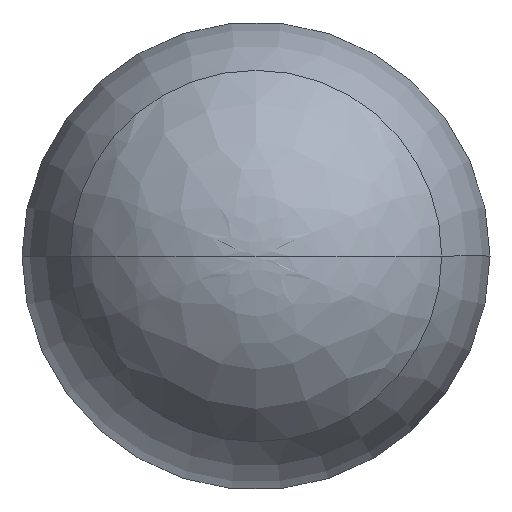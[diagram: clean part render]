
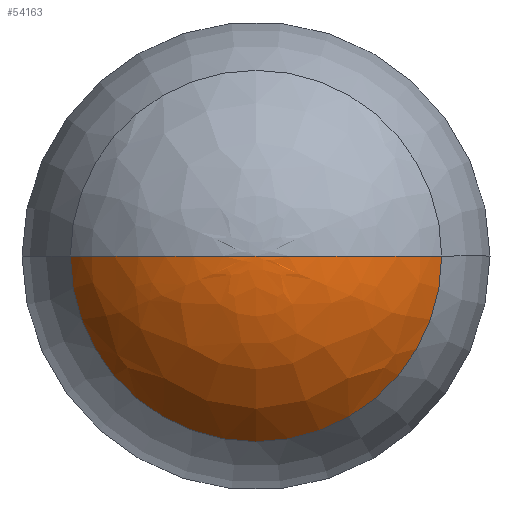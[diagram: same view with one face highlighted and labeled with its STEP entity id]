
A CAD part, front view. The second image highlights one B-rep face of the part: STEP entity #54163.
In plain terms, the highlighted free-form (B-spline) face has degree [3, 3] with [5, 4] control points.
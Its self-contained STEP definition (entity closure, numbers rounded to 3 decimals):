
#9090 = CARTESIAN_POINT ( 'NONE',  ( -160.988, -342.079, 10.578 ) ) ;
#11066 = CARTESIAN_POINT ( 'NONE',  ( 17.311, -402.621, 10.578 ) ) ;
#11469 = CARTESIAN_POINT ( 'NONE',  ( -177.345, -316.996, 10.578 ) ) ;
#11844 = CARTESIAN_POINT ( 'NONE',  ( -19.285, -402.621, 10.578 ) ) ;
#14959 = EDGE_CURVE ( 'NONE', #88991, #60854, #88967, .T. ) ;
#22335 = CARTESIAN_POINT ( 'NONE',  ( -19.285, -402.621, 10.578 ) ) ;
#23926 = CARTESIAN_POINT ( 'NONE',  ( 76.305, -384.669, -180.601 ) ) ;
#30212 = CARTESIAN_POINT ( 'NONE',  ( 138.775, -316.996, 10.578 ) ) ;
#32008 =( BOUNDED_SURFACE ( )  B_SPLINE_SURFACE ( 3, 3, ( 
 ( #11844, #144161, #22335, #110953 ),
 ( #11066, #35224, #45742, #36023 ),
 ( #34467, #23926, #132020, #60988 ),
 ( #59408, #96492, #82847, #121444 ),
 ( #145671, #84404, #33693, #94925 ) ),
 .UNSPECIFIED., .F., .F., .T. ) 
 B_SPLINE_SURFACE_WITH_KNOTS ( ( 4, 1, 4 ),
 ( 4, 4 ),
 ( 0., 0.54, 1. ),
 ( 0., 1. ),
 .UNSPECIFIED. ) 
 GEOMETRIC_REPRESENTATION_ITEM ( )  RATIONAL_B_SPLINE_SURFACE ( (
 ( 1., 0.333, 0.333, 1.),
 ( 1., 0.333, 0.333, 1.),
 ( 1., 0.333, 0.333, 1.),
 ( 1., 0.333, 0.333, 1.),
 ( 1., 0.333, 0.333, 1.) ) ) 
 REPRESENTATION_ITEM ( '' )  SURFACE ( )  );
#33693 = CARTESIAN_POINT ( 'NONE',  ( -177.345, -316.996, -305.542 ) ) ;
#34467 = CARTESIAN_POINT ( 'NONE',  ( 76.305, -384.669, 10.578 ) ) ;
#35224 = CARTESIAN_POINT ( 'NONE',  ( 17.311, -402.621, -62.613 ) ) ;
#36023 = CARTESIAN_POINT ( 'NONE',  ( -55.88, -402.621, 10.578 ) ) ;
#42404 = EDGE_LOOP ( 'NONE', ( #61238, #58920, #116340 ) ) ;
#45742 = CARTESIAN_POINT ( 'NONE',  ( -55.88, -402.621, -62.613 ) ) ;
#53059 = CARTESIAN_POINT ( 'NONE',  ( -19.285, -316.996, 10.578 ) ) ;
#54163 = ADVANCED_FACE ( 'NONE', ( #86266 ), #32008, .F. ) ;
#58920 = ORIENTED_EDGE ( 'NONE', *, *, #145383, .T. ) ;
#59016 = CARTESIAN_POINT ( 'NONE',  ( -55.88, -402.621, 10.578 ) ) ;
#59408 = CARTESIAN_POINT ( 'NONE',  ( 122.418, -342.079, 10.578 ) ) ;
#60617 = CARTESIAN_POINT ( 'NONE',  ( -19.285, -402.621, 10.578 ) ) ;
#60854 = VERTEX_POINT ( 'NONE', #30212 ) ;
#60988 = CARTESIAN_POINT ( 'NONE',  ( -114.874, -384.669, 10.578 ) ) ;
#61238 = ORIENTED_EDGE ( 'NONE', *, *, #14959, .F. ) ;
#61465 = DIRECTION ( 'NONE',  ( 0., 1., 0. ) ) ;
#74618 = CIRCLE ( 'NONE', #125992, 158.06 ) ;
#81881 = EDGE_CURVE ( 'NONE', #60854, #100264, #74618, .T. ) ;
#82847 = CARTESIAN_POINT ( 'NONE',  ( -160.988, -342.079, -272.828 ) ) ;
#84404 = CARTESIAN_POINT ( 'NONE',  ( 138.775, -316.996, -305.542 ) ) ;
#85469 = CARTESIAN_POINT ( 'NONE',  ( -177.345, -316.996, 10.578 ) ) ;
#85882 = B_SPLINE_CURVE_WITH_KNOTS ( 'NONE', 3,
 ( #60617, #59016, #144541, #9090, #11469 ),
 .UNSPECIFIED., .F., .F.,
 ( 4, 1, 4 ),
 ( 0., 0.54, 1. ),
 .UNSPECIFIED. ) ;
#86266 = FACE_OUTER_BOUND ( 'NONE', #42404, .T. ) ;
#88967 = B_SPLINE_CURVE_WITH_KNOTS ( 'NONE', 3,
 ( #113105, #98641, #124373, #122756, #135715 ),
 .UNSPECIFIED., .F., .F.,
 ( 4, 1, 4 ),
 ( 0., 0.54, 1. ),
 .UNSPECIFIED. ) ;
#88991 = VERTEX_POINT ( 'NONE', #115842 ) ;
#94925 = CARTESIAN_POINT ( 'NONE',  ( -177.345, -316.996, 10.578 ) ) ;
#96492 = CARTESIAN_POINT ( 'NONE',  ( 122.418, -342.079, -272.828 ) ) ;
#98641 = CARTESIAN_POINT ( 'NONE',  ( 17.311, -402.621, 10.578 ) ) ;
#100264 = VERTEX_POINT ( 'NONE', #85469 ) ;
#110953 = CARTESIAN_POINT ( 'NONE',  ( -19.285, -402.621, 10.578 ) ) ;
#113105 = CARTESIAN_POINT ( 'NONE',  ( -19.285, -402.621, 10.578 ) ) ;
#115842 = CARTESIAN_POINT ( 'NONE',  ( -19.285, -402.621, 10.578 ) ) ;
#116340 = ORIENTED_EDGE ( 'NONE', *, *, #81881, .F. ) ;
#121444 = CARTESIAN_POINT ( 'NONE',  ( -160.988, -342.079, 10.578 ) ) ;
#122756 = CARTESIAN_POINT ( 'NONE',  ( 122.418, -342.079, 10.578 ) ) ;
#124373 = CARTESIAN_POINT ( 'NONE',  ( 76.305, -384.669, 10.578 ) ) ;
#125992 = AXIS2_PLACEMENT_3D ( 'NONE', #53059, #61465, #149879 ) ;
#132020 = CARTESIAN_POINT ( 'NONE',  ( -114.874, -384.669, -180.601 ) ) ;
#135715 = CARTESIAN_POINT ( 'NONE',  ( 138.775, -316.996, 10.578 ) ) ;
#144161 = CARTESIAN_POINT ( 'NONE',  ( -19.285, -402.621, 10.578 ) ) ;
#144541 = CARTESIAN_POINT ( 'NONE',  ( -114.874, -384.669, 10.578 ) ) ;
#145383 = EDGE_CURVE ( 'NONE', #88991, #100264, #85882, .T. ) ;
#145671 = CARTESIAN_POINT ( 'NONE',  ( 138.775, -316.996, 10.578 ) ) ;
#149879 = DIRECTION ( 'NONE',  ( -1., 0., 0. ) ) ;
